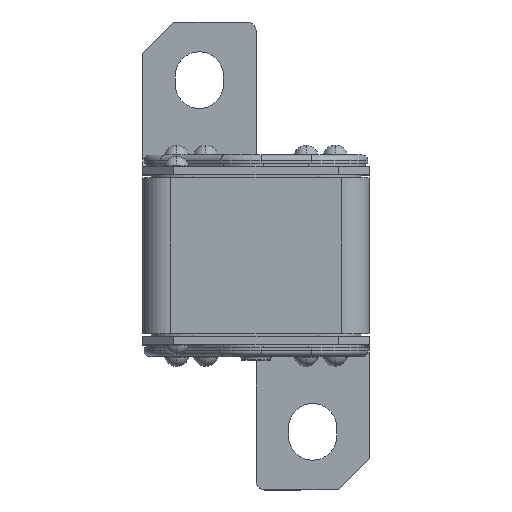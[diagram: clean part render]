
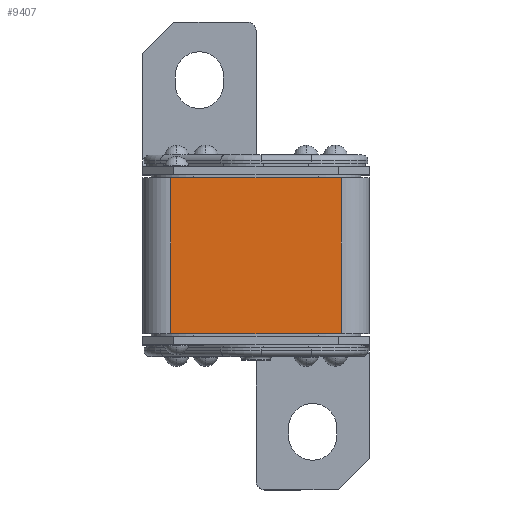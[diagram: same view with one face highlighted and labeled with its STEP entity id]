
A CAD part, top view. The second image highlights one B-rep face of the part: STEP entity #9407.
In plain terms, the highlighted planar face has unit normal (0, 0, 1).
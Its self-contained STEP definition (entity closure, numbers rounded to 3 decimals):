
#283 = CARTESIAN_POINT ( 'NONE',  ( -30., 27.5, 40. ) ) ;
#289 = ORIENTED_EDGE ( 'NONE', *, *, #3647, .T. ) ;
#377 = EDGE_LOOP ( 'NONE', ( #17418, #3030, #10753, #289 ) ) ;
#936 = DIRECTION ( 'NONE',  ( 0., -1., 0. ) ) ;
#1029 = VECTOR ( 'NONE', #936, 1000. ) ;
#2114 = DIRECTION ( 'NONE',  ( 1., 0., 0. ) ) ;
#2554 = CARTESIAN_POINT ( 'NONE',  ( -30., -27.5, 40. ) ) ;
#2846 = DIRECTION ( 'NONE',  ( 1., 0., 0. ) ) ;
#2878 = CARTESIAN_POINT ( 'NONE',  ( 30., -27.5, 40. ) ) ;
#3030 = ORIENTED_EDGE ( 'NONE', *, *, #11529, .F. ) ;
#3647 = EDGE_CURVE ( 'NONE', #11685, #5761, #17014, .T. ) ;
#3695 = LINE ( 'NONE', #11832, #10667 ) ;
#4496 = CARTESIAN_POINT ( 'NONE',  ( -30., 27.5, 40. ) ) ;
#4822 = LINE ( 'NONE', #4496, #15019 ) ;
#5103 = FACE_OUTER_BOUND ( 'NONE', #377, .T. ) ;
#5761 = VERTEX_POINT ( 'NONE', #2554 ) ;
#6343 = CARTESIAN_POINT ( 'NONE',  ( 30., 27.5, 40. ) ) ;
#6987 = CARTESIAN_POINT ( 'NONE',  ( -30., 27.5, 40. ) ) ;
#7573 = DIRECTION ( 'NONE',  ( 0., -1., 0. ) ) ;
#8243 = VECTOR ( 'NONE', #2114, 1000. ) ;
#8812 = AXIS2_PLACEMENT_3D ( 'NONE', #6987, #18750, #12694 ) ;
#9088 = CARTESIAN_POINT ( 'NONE',  ( -30., 27.5, 40. ) ) ;
#9407 = ADVANCED_FACE ( 'NONE', ( #5103 ), #13570, .F. ) ;
#9653 = EDGE_CURVE ( 'NONE', #11685, #13686, #4822, .T. ) ;
#10667 = VECTOR ( 'NONE', #7573, 1000. ) ;
#10753 = ORIENTED_EDGE ( 'NONE', *, *, #9653, .F. ) ;
#11529 = EDGE_CURVE ( 'NONE', #13686, #16342, #3695, .T. ) ;
#11685 = VERTEX_POINT ( 'NONE', #283 ) ;
#11832 = CARTESIAN_POINT ( 'NONE',  ( 30., 27.5, 40. ) ) ;
#12694 = DIRECTION ( 'NONE',  ( -1., 0., 0. ) ) ;
#13570 = PLANE ( 'NONE',  #8812 ) ;
#13686 = VERTEX_POINT ( 'NONE', #6343 ) ;
#14039 = CARTESIAN_POINT ( 'NONE',  ( -30., -27.5, 40. ) ) ;
#14469 = EDGE_CURVE ( 'NONE', #5761, #16342, #15633, .T. ) ;
#15019 = VECTOR ( 'NONE', #2846, 1000. ) ;
#15633 = LINE ( 'NONE', #14039, #8243 ) ;
#16342 = VERTEX_POINT ( 'NONE', #2878 ) ;
#17014 = LINE ( 'NONE', #9088, #1029 ) ;
#17418 = ORIENTED_EDGE ( 'NONE', *, *, #14469, .T. ) ;
#18750 = DIRECTION ( 'NONE',  ( 0., 0., -1. ) ) ;
